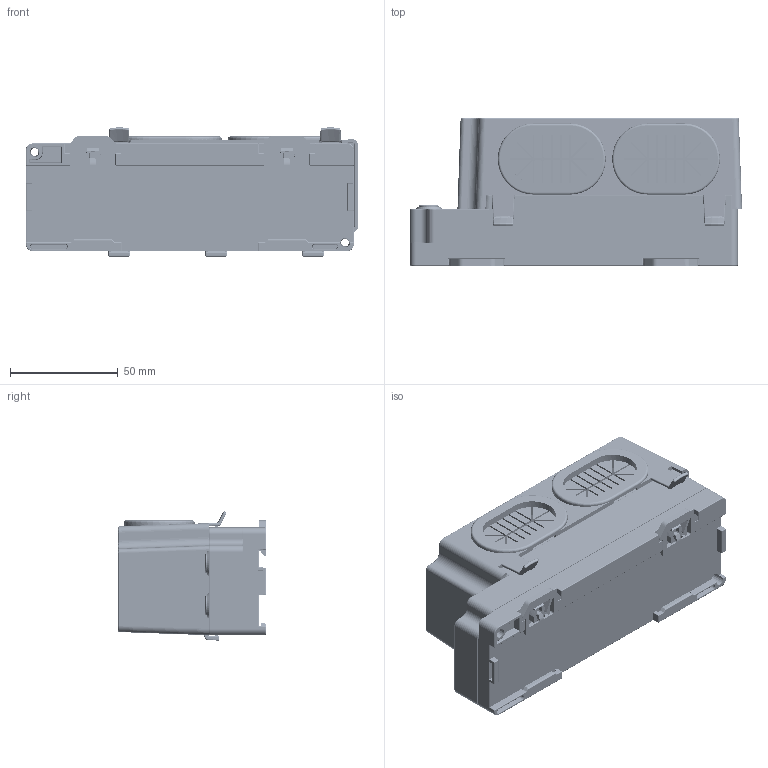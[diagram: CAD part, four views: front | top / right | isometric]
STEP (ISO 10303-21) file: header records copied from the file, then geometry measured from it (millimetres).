
FILE_DESCRIPTION((''),'2;1');
FILE_NAME('XBF5C-TOP-ASM','2025-12-16T13:28:41',('Administrator'),(''),'CREO PARAMETRIC BY PTC INC, 2022073','CREO PARAMETRIC BY PTC INC, 2022073','');
FILE_SCHEMA(('CONFIG_CONTROL_DESIGN'));
Products named in the file (1): XBF5C-TOP-ASM
Bounding box: 154 x 68.5 x 59.9 mm (x, y, z)
Volume: 148895.6 mm3; surface area: 180235.1 mm2
Topology: 1 solids, 86 shells, 26532 faces, 74062 edges, 48370 vertices
Faces by surface type: plane 18261, cylinder 5290, extrusion 948, bspline 938, torus 517, cone 489, sphere 89
Entity records: 970423 total; most frequent: CARTESIAN_POINT 291860, ORIENTED_EDGE 147520, DIRECTION 131556, EDGE_CURVE 73760, VECTOR 57242, LINE 56294, VERTEX_POINT 48242, AXIS2_PLACEMENT_3D 37157
